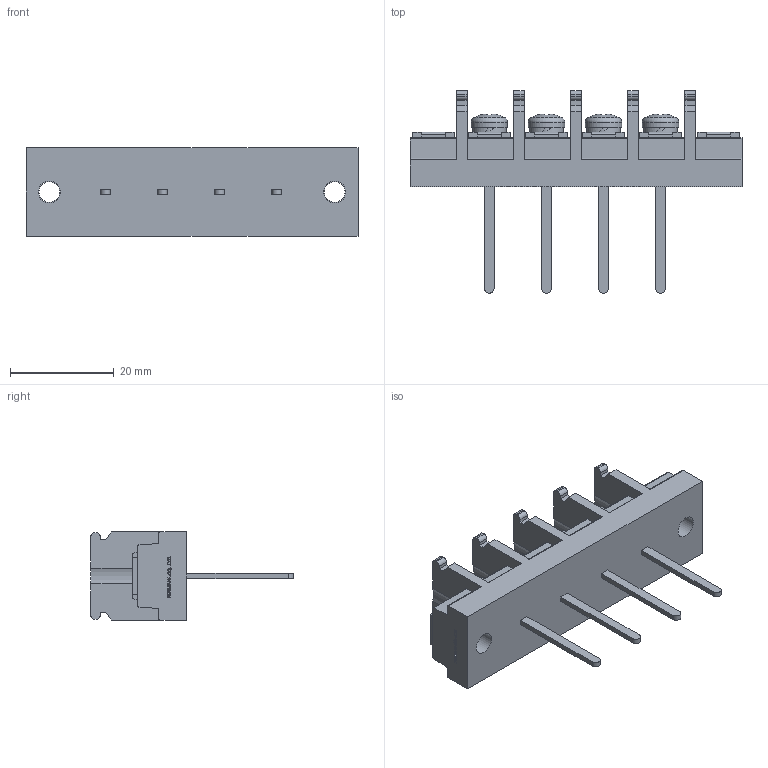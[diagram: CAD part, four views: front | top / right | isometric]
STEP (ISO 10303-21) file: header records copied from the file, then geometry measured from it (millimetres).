
FILE_DESCRIPTION(/* description */ ('Alibre Inc.'),/* implementation_level */ '2;1');
FILE_NAME(/* name */ 'export0',/* time_stamp */ '2015-10-20T07:53:41+09:00',/* author */ (''),/* organization */ (''),/* preprocessor_version */ 'ST-DEVELOPER v14',/* originating_system */ 'Alibre',/* authorisation */ '');
FILE_SCHEMA (('CONFIG_CONTROL_DESIGN'));
Length unit declared in the file: centimetre
Products named in the file (1): ID_1
Bounding box: 64 x 39 x 17 mm (x, y, z)
Volume: 11373.5 mm3; surface area: 6853 mm2
Topology: 1 solids, 1 shells, 744 faces, 2048 edges, 1362 vertices
Faces by surface type: plane 526, bspline 104, cylinder 86, cone 16, torus 8, sphere 4
Full cylindrical faces by diameter (mm): 4 x6, 4.2 x2, 6.5 x4, 7 x4
Entity records: 22961 total; most frequent: CARTESIAN_POINT 5152, ORIENTED_EDGE 4028, DIRECTION 2799, EDGE_CURVE 2014, VECTOR 1477, LINE 1477, VERTEX_POINT 1348, AXIS2_PLACEMENT_3D 919
